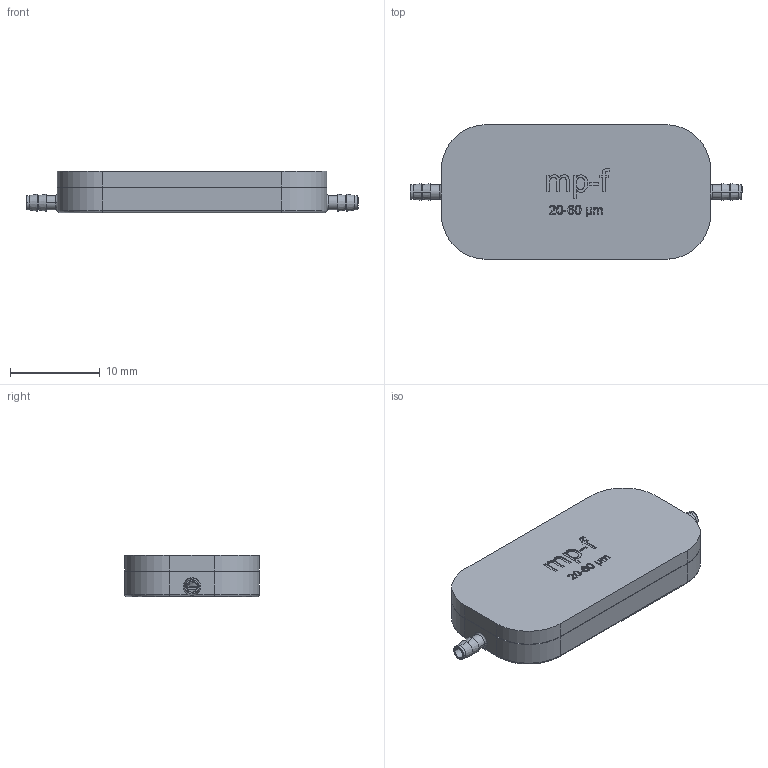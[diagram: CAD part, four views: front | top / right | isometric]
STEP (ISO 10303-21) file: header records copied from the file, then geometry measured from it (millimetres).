
FILE_DESCRIPTION (( 'STEP AP214' ), '1' );
FILE_NAME ('mp-f_part.STEP', '2021-03-15T14:07:15', ( '' ), ( '' ), 'SwSTEP 2.0', 'SolidWorks 2018', '' );
FILE_SCHEMA (( 'AUTOMOTIVE_DESIGN' ));
Length unit declared in the file: millimetre
Products named in the file (1): mp-f_part
Bounding box: 37 x 15 x 4.6 mm (x, y, z)
Volume: 1585.5 mm3; surface area: 3203.2 mm2
Topology: 3 solids, 3 shells, 395 faces, 1028 edges, 664 vertices
Faces by surface type: plane 168, bspline 95, cylinder 90, cone 24, torus 14, sphere 4
Entity records: 20847 total; most frequent: CARTESIAN_POINT 7303, ORIENTED_EDGE 2044, DIRECTION 1648, EDGE_CURVE 1022, VERTEX_POINT 664, LINE 570, VECTOR 570, AXIS2_PLACEMENT_3D 539
